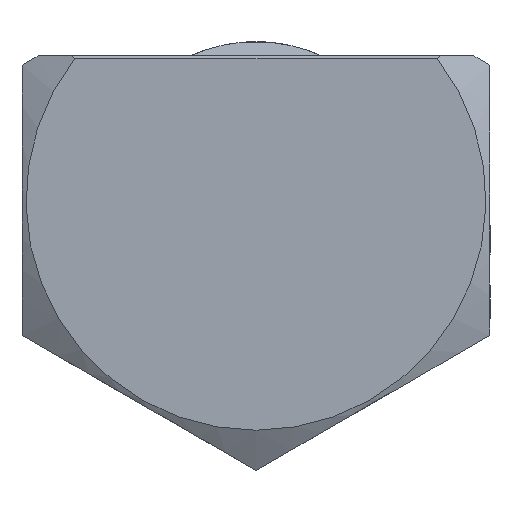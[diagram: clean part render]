
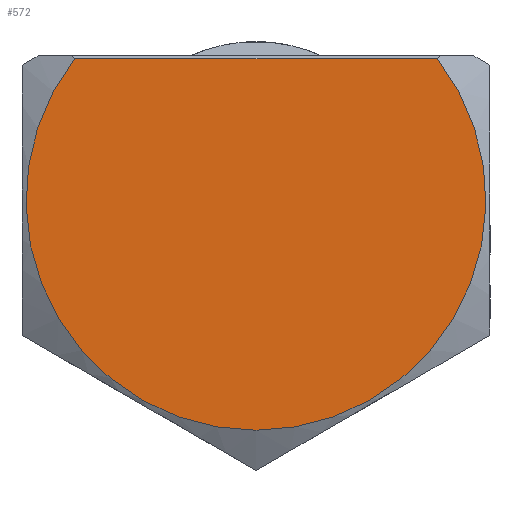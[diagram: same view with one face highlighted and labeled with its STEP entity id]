
A CAD part, front view. The second image highlights one B-rep face of the part: STEP entity #572.
In plain terms, the highlighted planar face has unit normal (0, -1, 0).
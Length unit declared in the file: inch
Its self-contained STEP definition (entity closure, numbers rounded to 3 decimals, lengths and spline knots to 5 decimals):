
#60=PLANE('',#636);
#78=FACE_OUTER_BOUND('',#114,.T.);
#114=EDGE_LOOP('',(#428,#429));
#151=LINE('',#931,#180);
#180=VECTOR('',#728,0.3937);
#209=CIRCLE('',#630,0.86);
#255=VERTEX_POINT('',#926);
#256=VERTEX_POINT('',#930);
#318=EDGE_CURVE('',#255,#256,#151,.T.);
#320=EDGE_CURVE('',#256,#255,#209,.T.);
#428=ORIENTED_EDGE('',*,*,#318,.F.);
#429=ORIENTED_EDGE('',*,*,#320,.F.);
#572=ADVANCED_FACE('',(#78),#60,.T.);
#630=AXIS2_PLACEMENT_3D('',#936,#731,#732);
#636=AXIS2_PLACEMENT_3D('',#970,#743,#744);
#728=DIRECTION('',(1.,0.,0.));
#731=DIRECTION('center_axis',(0.,1.,0.));
#732=DIRECTION('ref_axis',(0.,0.,1.));
#743=DIRECTION('center_axis',(0.,-1.,0.));
#744=DIRECTION('ref_axis',(0.,0.,-1.));
#926=CARTESIAN_POINT('',(-0.67727,0.,0.53));
#930=CARTESIAN_POINT('',(0.67727,0.,0.53));
#931=CARTESIAN_POINT('',(0.40735,0.,0.53));
#936=CARTESIAN_POINT('Origin',(0.,0.,0.));
#970=CARTESIAN_POINT('Origin',(0.,0.,0.));
